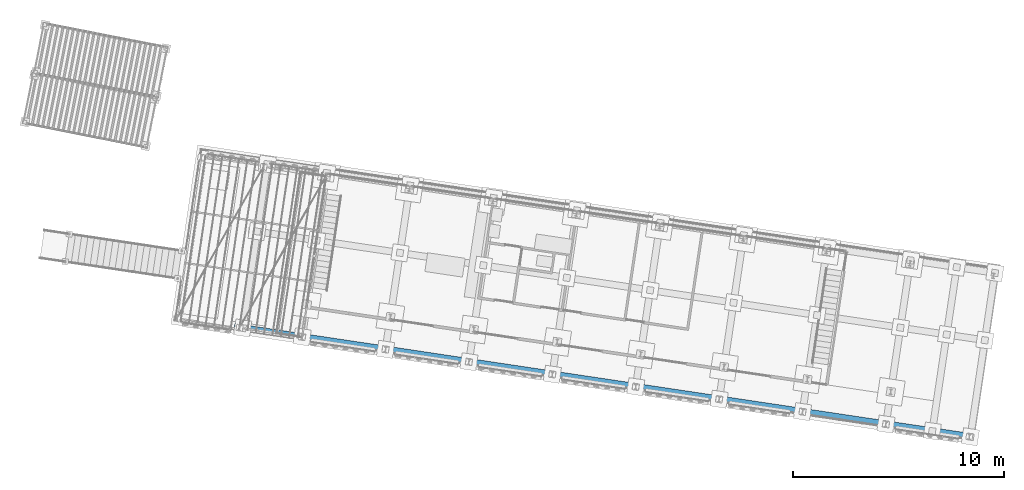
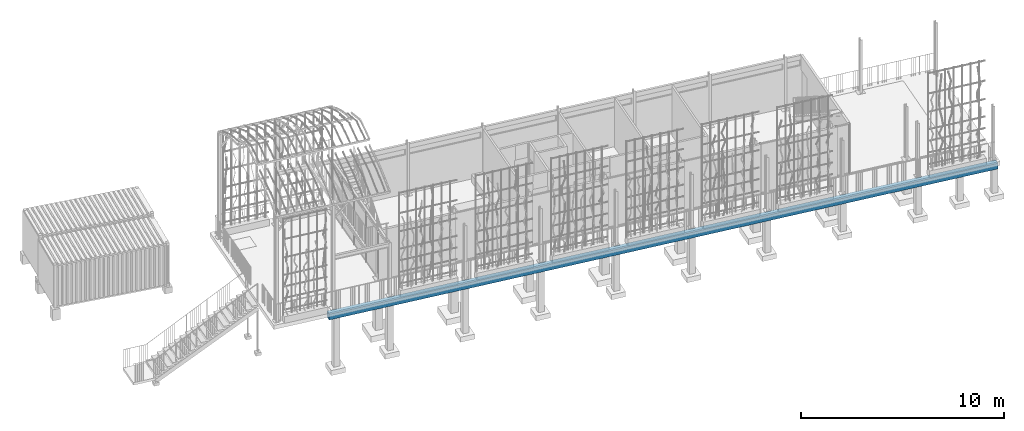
# One storey, part 72 of 143: 1 beam, 1 element without a shape of its own.
"""IFC4 building model written with IfcOpenShell, lengths in metres."""

from ifc_helpers import new_model, si_unit, direction, frame, origin_with_axes, place, context, subcontext, project, spatial, polyline, outline, extrude, material, element, aggregate, save


model = new_model("IFC4")

# Units and contexts
model_context = context("Model", 3, precision=1e-05, world=origin_with_axes(), true_north=direction((0.0, 1.0)))
body_context = subcontext(model_context, "Body", "Model", "MODEL_VIEW")
ifc_project = project(units=[si_unit("VOLUMEUNIT", "CUBIC_METRE"), si_unit("LENGTHUNIT", "METRE"), si_unit("AREAUNIT", "SQUARE_METRE")], contexts=[model_context])

# Site, building, storey
site_placement = place(None, origin_with_axes())
site = spatial("IfcSite", under=ifc_project, at=site_placement, Name="Lares · Rua das Mercês · artigo 4771")
building_placement = place(site_placement, frame((15.0, 9.7, 15.8), z_axis=(0.0, 0.0, 1.0), x_axis=(0.989015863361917, -0.147809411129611, 0.0)))
building = spatial("IfcBuilding", under=site, at=building_placement, Name="Casa Sobreposta")
storey_placement = place(building_placement, origin_with_axes())
storey = spatial("IfcBuildingStorey", under=building, at=storey_placement, Name="00 · Habitação e estacionamento", Elevation=15.8)

# Assembly, beam
assembly_placement = place(storey_placement, origin_with_axes())
assembly = element("IfcElementAssembly", 1, at=assembly_placement, inside=storey, Name="Pódio · terraço, casa térrea e cisterna", ObjectType="CISTERN_PODIUM", PredefinedType="USERDEFINED")
ifc_material = material(Name="Betão armado / Stahlbeton", Category="concrete")
beam_placement = place(assembly_placement, frame((0.0, 0.0, -0.59), z_axis=(0.0, 0.0, 1.0), x_axis=(1.0, 0.0, 0.0)))
beam = element("IfcBeam", 2, at=beam_placement, material=ifc_material, Name="Pódio suspenso · viga longitudinal", context=body_context, shape_type="SweptSolid", body=[
    extrude(outline(polyline([(32.21, -1.59), (32.21, -1.27), (-3.25, -1.27), (-3.25, -1.59), (32.21, -1.59)])), origin_with_axes(), (0.0, 0.0, 1.0), 0.34),
])
aggregate(assembly, [beam])

save(model, "model.ifc")
